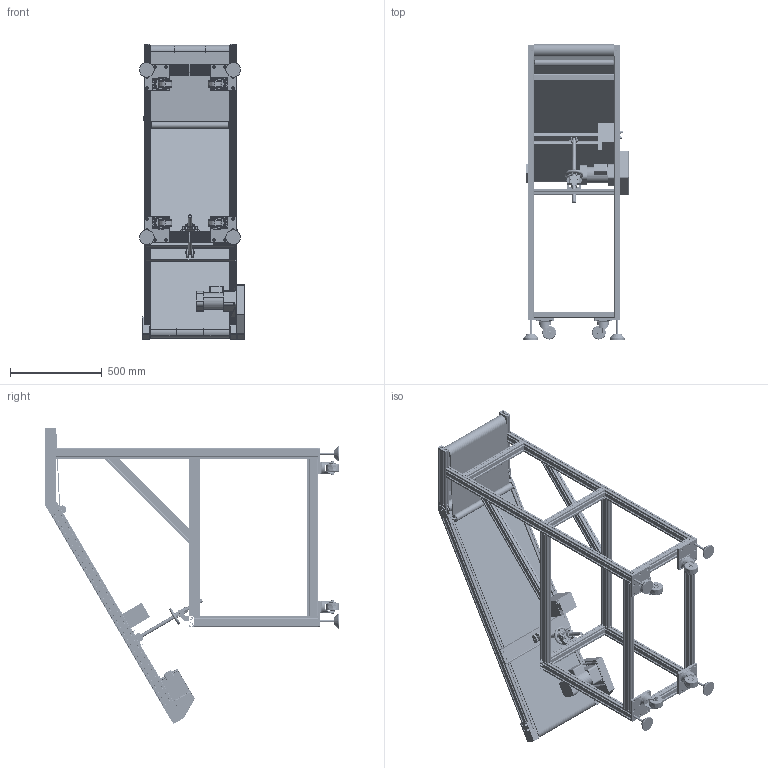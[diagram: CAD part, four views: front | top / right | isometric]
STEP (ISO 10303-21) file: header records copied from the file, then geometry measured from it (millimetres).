
FILE_DESCRIPTION(/* description */ (''),/* implementation_level */ '2;1');
FILE_NAME(/* name */ 'beltconveyor_a111_w440_l1700.stp',/* time_stamp */ '2025-01-08T23:09:20+08:00',/* author */ (''),/* organization */ (''),/* preprocessor_version */ 'ST-DEVELOPER v16.7',/* originating_system */ 'SIEMENS PLM Software NX 12.0',/* authorisation */ '');
FILE_SCHEMA (('AUTOMOTIVE_DESIGN { 1 0 10303 214 3 1 1 1 }'));
Products named in the file (59): C01316001-A02a; STWN25_2_03; C01316001-A01; C01316001-A02; B6005ZZ_2_03; 脚杯-1; sj0630-1; _CGAN75-P-base; _CGAN75-P-swivel; _CGAN75-P-wheel; HFS6-3060-8; HFS6-3060-6; HFS6-3060-4; HFS6-3060-3; HFS6-3060-2; HFS6-3060-1; 精研调速器盒子.-A-D; SF系列.-A-D; hexagon nuts grade c gb_GB_FASTENER_NUT_SNC1 M20-N; NF100; 托辊; 120YT01; C01316001-Z20; C01316001-Z11; C01316001-Z07; C01316001-Z06; 镜向C01316001-Z25; C01316001-Z25; 镜向HFS6-3060-4; C01316001-Z26; C01316001-Z08; C01316001-Z14; C01316001-Z23; C01316001-Z05; C01316001-Z17; C01316001-Z02; short pitch roller chain wheel_s_iso_Chain wheel ISO - 16Z 06B-1 --16
SB30H20L15S1; MPBZ15-30; C01316001-Z13; 零件2^Z00 ...
Assembly tree (90 placements, depth 3):
  beltconveyor_a111_w440_l1700
    精研调速器组立.-A-D
      SF系列.-A-D
      精研调速器盒子.-A-D
    C01316001-Z16
    C01316001-Z09  x2
    C01316001-Z12
    C01316001-Z15  x2
    C01316001-Z10
    C01316001-B00
      HFS6-3060-1  x2
      HFS6-3060-2  x4
      HFS6-3060-3  x4
      HFS6-3060-4  x2
      HFS6-3060-6  x2
      HFS6-3060-8
    CGAN75-P_2_03  x4
      _CGAN75-P-wheel
      _CGAN75-P-swivel
      _CGAN75-P-base
    镜向C01316001-Z01
    C01316001-Z27  x2
    B6004ZZ_2_03  x2
    C01316001-Z01
    C01316001-Z21  x2
    零件2^Z00
    C01316001-Z13
    装配体162994
      sj0630-1  x2
    脚杯  x4
      脚杯-1
    C01316001-A00
      B6005ZZ_2_03  x2
      C01316001-A02
      C01316001-A01
      STWN25_2_03  x2
    MPBZ15-30  x2
    short pitch roller chain wheel_s_iso_Chain wheel ISO - 16Z 06B-1 --16
SB30H20L15S1  x2
    C01316001-Z02  x2
    C01316001-Z17
    C01316001-Z05
    C01316001-Z23
    C01316001-Z14
    装配体1
      sj0630-1  x2
    C01316001-Z08
    C01316001-Z26  x2
    镜向HFS6-3060-4
    C01316001-Z25
    镜向C01316001-Z25
    C01316001-C00
      C01316001-A01
      B6005ZZ_2_03  x2
      C01316001-A02a
    C01316001-Z06
    C01316001-Z07
    C01316001-Z11
    C01316001-Z20
    120YT01
    托辊
Bounding box: 571.37 x 1603 x 1608.74 mm (x, y, z)
Volume: 25106676.7 mm3; surface area: 14174737.7 mm2
Topology: 234 solids, 235 shells, 7282 faces, 19552 edges, 12842 vertices
Faces by surface type: plane 3840, extrusion 1476, cylinder 1472, cone 209, torus 194, bspline 87, sphere 4
Entity records: 122281 total; most frequent: CARTESIAN_POINT 39289, ORIENTED_EDGE 17574, DIRECTION 15244, EDGE_CURVE 8787, VERTEX_POINT 5733, VECTOR 5660, LINE 5291, AXIS2_PLACEMENT_3D 4792
